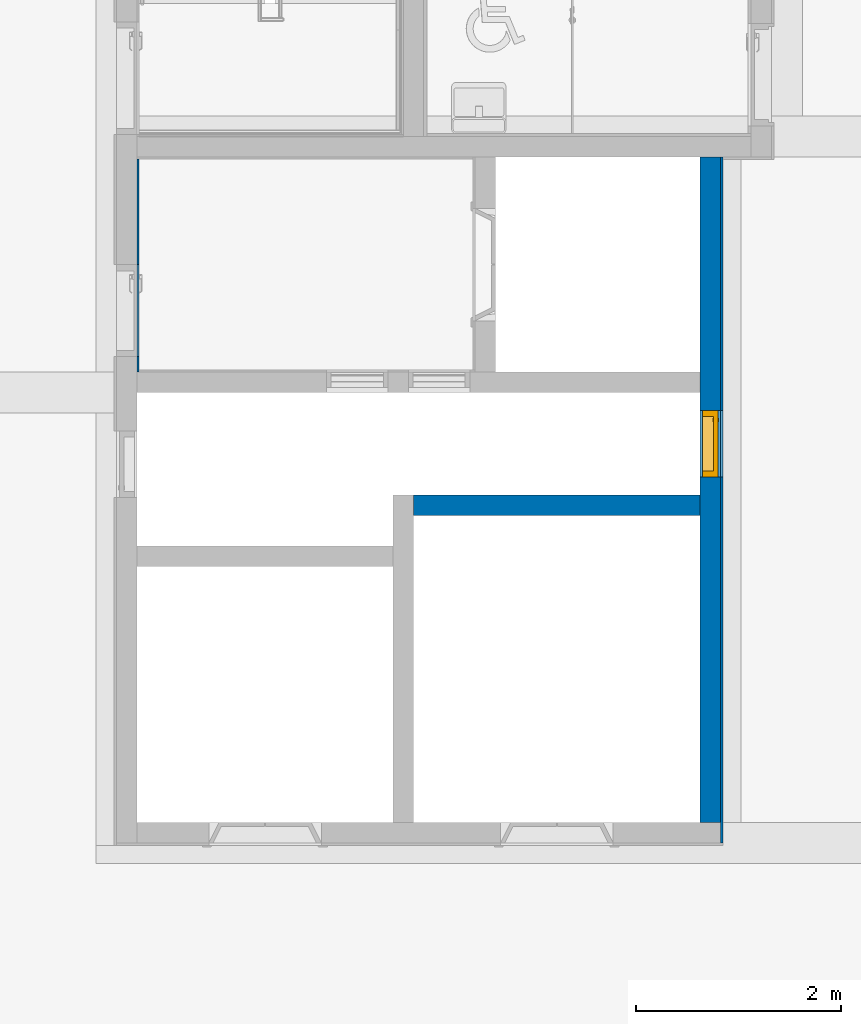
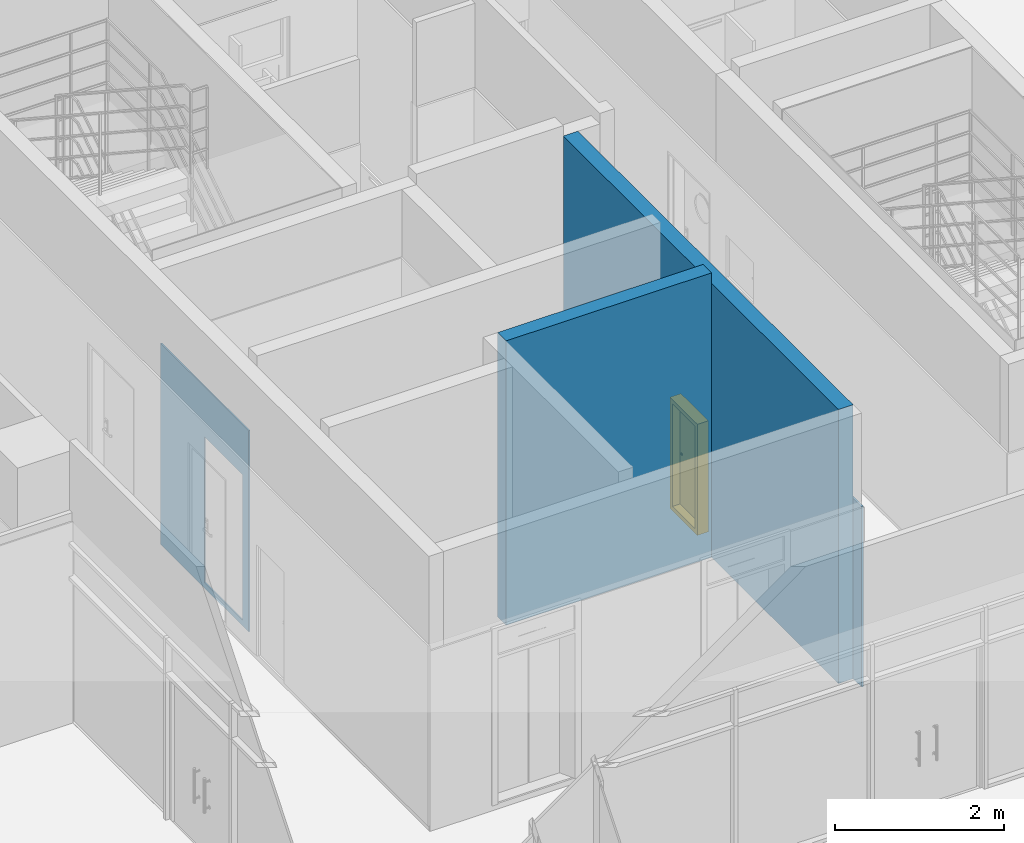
# One storey, part 54 of 81: 4 walls, 1 door, 3 openings.
"""IFC2X3 building model written with IfcOpenShell, lengths in millimetres."""

import ifcopenshell
import ifcopenshell.guid

model = None  # the IFC model being written
_history = None  # IfcOwnerHistory: only IFC2X3 demands one
_inside = {}  # id of a spatial element -> (the spatial element, [elements in it])
_under = {}  # id of a project, library or spatial element -> (it, [spatial elements below it])
_declared = {}  # id of a project -> (the project, [libraries it declares])
_typed = {}  # id of a type object -> (the type object, [elements of that type])
_made_of = {}  # id of a material, layer set ... -> (it, [elements and type objects made of it])


def new_model(schema):
    """Start an empty IFC model of exactly this schema.

    Asked for "IFC4X3", IfcOpenShell would pick the latest addendum, in which some entities
    have other attributes; the version numbers below select the first issue.
    IFC2X3 requires an IfcOwnerHistory on every rooted entity: one is made here for all.
    """
    global model, _history
    if schema == "IFC4X3":
        model = ifcopenshell.file(schema_version=(4, 3, 0, 0))
    else:
        model = ifcopenshell.file(schema=schema)
    _inside.clear()
    _under.clear()
    _declared.clear()
    _typed.clear()
    _made_of.clear()
    _history = None
    if model.schema == "IFC2X3":
        org = make("IfcOrganization", Name="unknown")
        user = make(
            "IfcPersonAndOrganization",
            ThePerson=make("IfcPerson", FamilyName="unknown"),
            TheOrganization=org,
        )
        app = make(
            "IfcApplication",
            ApplicationDeveloper=org,
            Version="unknown",
            ApplicationFullName="unknown",
            ApplicationIdentifier="unknown",
        )
        _history = make(
            "IfcOwnerHistory",
            OwningUser=user,
            OwningApplication=app,
            ChangeAction="ADDED",
            CreationDate=0,
        )
    return model


def make(cls, **values):
    """One entity of the class cls with the attributes given. An attribute that is None is left unset."""
    return model.create_entity(
        cls, **{name: value for name, value in values.items() if value is not None}
    )


def entity(cls, *values):
    """Any entity or typed value of the class cls, its attributes in the order of the schema. None: left unset."""
    e = model.create_entity(cls)
    for i, value in enumerate(values):
        if value is not None:
            e[i] = value
    return e


def rooted(cls, **values):
    """An entity with a GlobalId (a new one), such as an element, a storey or a relation."""
    return make(cls, GlobalId=ifcopenshell.guid.new(), OwnerHistory=_history, **values)


def si_unit(unit_type, name, prefix=None):
    """IfcSIUnit, for example si_unit("LENGTHUNIT", "METRE", prefix="MILLI")."""
    return make("IfcSIUnit", UnitType=unit_type, Prefix=prefix, Name=name)


def converted_unit(unit_type, name, factor, base, dimensions=None, offset=None):
    """IfcConversionBasedUnit, such as the inch: factor (a typed value) times the base unit."""
    return make(
        "IfcConversionBasedUnit"
        if offset is None
        else "IfcConversionBasedUnitWithOffset",
        ConversionOffset=offset,
        Dimensions=None
        if dimensions is None
        else entity("IfcDimensionalExponents", *dimensions),
        UnitType=unit_type,
        Name=name,
        ConversionFactor=make(
            "IfcMeasureWithUnit", ValueComponent=factor, UnitComponent=base
        ),
    )


def derived_unit(unit_type, elements):
    """IfcDerivedUnit: a product of units, each with its exponent."""
    return make(
        "IfcDerivedUnit",
        Elements=[
            make("IfcDerivedUnitElement", Unit=unit, Exponent=power)
            for unit, power in elements
        ],
        UnitType=unit_type,
    )


def assignment(units):
    """IfcUnitAssignment: the units of a project."""
    return None if units is None else make("IfcUnitAssignment", Units=units)


def point(xyz):
    """IfcCartesianPoint."""
    return None if xyz is None else make("IfcCartesianPoint", Coordinates=xyz)


def direction(xyz):
    """IfcDirection."""
    return None if xyz is None else make("IfcDirection", DirectionRatios=xyz)


def frame(location, z_axis=None, x_axis=None):
    """IfcAxis2Placement3D, a coordinate frame: its origin and axes. An axis left out is left unset."""
    return make(
        "IfcAxis2Placement3D",
        Location=point(location),
        Axis=direction(z_axis),
        RefDirection=direction(x_axis),
    )


def frame_2d(location, x_axis=None):
    """IfcAxis2Placement2D, a coordinate frame in the plane: its origin and x axis."""
    return make(
        "IfcAxis2Placement2D", Location=point(location), RefDirection=direction(x_axis)
    )


def origin():
    """The frame at (0, 0, 0) with its axes left unset."""
    return frame((0.0, 0.0, 0.0))


def place(relative_to, where):
    """IfcLocalPlacement: puts the frame where relative to a parent placement (None: the world)."""
    return make(
        "IfcLocalPlacement", PlacementRelTo=relative_to, RelativePlacement=where
    )


def context(
    kind, dimensions, precision=None, world=None, true_north=None, identifier=None
):
    """IfcGeometricRepresentationContext, for example the 3D "Model" context."""
    return make(
        "IfcGeometricRepresentationContext",
        ContextIdentifier=identifier,
        ContextType=kind,
        CoordinateSpaceDimension=dimensions,
        Precision=precision,
        WorldCoordinateSystem=world,
        TrueNorth=true_north,
    )


def subcontext(parent, identifier, kind, view, scale=None):
    """IfcGeometricRepresentationSubContext, for example "Body" below "Model"."""
    return make(
        "IfcGeometricRepresentationSubContext",
        ContextIdentifier=identifier,
        ContextType=kind,
        ParentContext=parent,
        TargetScale=scale,
        TargetView=view,
    )


def project(units=None, contexts=None):
    """IfcProject with its units and contexts."""
    return rooted(
        "IfcProject",
        Name="project",
        RepresentationContexts=contexts,
        UnitsInContext=assignment(units),
    )


def spatial(cls, under=None, at=None, **own):
    """A site, building, storey or space (cls), placed at a placement, below another one or the project."""
    s = rooted(cls, ObjectPlacement=at, **own)
    if under is not None:
        _under.setdefault(under.id(), (under, []))[1].append(s)
    return s


def polyline(points):
    """IfcPolyline through the points."""
    return make("IfcPolyline", Points=[point(p) for p in points])


def profile(cls, at=None, kind="AREA", **sizes):
    """A parametric profile (cls). Its sizes go by their IFC names, for example OverallWidth=200.0."""
    return make(cls, ProfileType=kind, Position=at, **sizes)


def rectangle(**sizes):
    """IfcRectangleProfileDef."""
    return profile("IfcRectangleProfileDef", **sizes)


def extrude(swept, where, along, depth):
    """IfcExtrudedAreaSolid: the profile swept, set in the frame where, extruded along a direction by depth."""
    return make(
        "IfcExtrudedAreaSolid",
        SweptArea=swept,
        Position=where,
        ExtrudedDirection=direction(along),
        Depth=depth,
    )


def clip(a, b, op="DIFFERENCE"):
    """IfcBooleanClippingResult: the solid a cut by the half space b."""
    return make(
        "IfcBooleanClippingResult", Operator=op, FirstOperand=a, SecondOperand=b
    )


def bounded_halfspace(plane, agree, where, boundary):
    """IfcPolygonalBoundedHalfSpace: a half space limited to a polygon's prism."""
    return make(
        "IfcPolygonalBoundedHalfSpace",
        BaseSurface=make("IfcPlane", Position=plane),
        AgreementFlag=agree,
        Position=where,
        PolygonalBoundary=boundary,
    )


def faces_of(points, faces, orient=None, outer=None):
    """IfcFace entities. A face is a list of loops; a loop is a list of indices into points, from 0.

    orient and outer hold one flag for each loop. By default every Orientation is true, the
    first loop of a face is its IfcFaceOuterBound and the others are IfcFaceBound.
    """
    made = []
    for i, loops in enumerate(faces):
        bounds = []
        for j, loop in enumerate(loops):
            is_outer = j == 0 if outer is None else outer[i][j]
            bounds.append(
                make(
                    "IfcFaceOuterBound" if is_outer else "IfcFaceBound",
                    Bound=make("IfcPolyLoop", Polygon=[points[k] for k in loop]),
                    Orientation=True if orient is None else orient[i][j],
                )
            )
        made.append(make("IfcFace", Bounds=bounds))
    return made


def faceted_brep(points, faces, orient=None, outer=None, voids=None):
    """IfcFacetedBrep: a solid bounded by flat faces; with voids (closed shells), ...WithVoids."""
    shared = [point(p) for p in points]
    hull = make("IfcClosedShell", CfsFaces=faces_of(shared, faces, orient, outer))
    if voids is None:
        return make("IfcFacetedBrep", Outer=hull)
    return make(
        "IfcFacetedBrepWithVoids",
        Outer=hull,
        Voids=[
            make(cls, CfsFaces=faces_of(shared, fs, o, b)) for cls, fs, o, b in voids
        ],
    )


def shape(context_of_items, identifier, shape_type, items):
    """IfcShapeRepresentation: the items that make up one representation, for example the "Body"."""
    return make(
        "IfcShapeRepresentation",
        ContextOfItems=context_of_items,
        RepresentationIdentifier=identifier,
        RepresentationType=shape_type,
        Items=items,
    )


def source(mapping_origin, context_of_items, identifier, shape_type, items):
    """IfcRepresentationMap: a shape defined once, which mapped items show again and again."""
    return make(
        "IfcRepresentationMap",
        MappingOrigin=mapping_origin,
        MappedRepresentation=shape(context_of_items, identifier, shape_type, items),
    )


def transform(
    local_origin,
    x_axis=None,
    y_axis=None,
    z_axis=None,
    scale=None,
    scale2=None,
    scale3=None,
    uniform=True,
):
    """IfcCartesianTransformationOperator3D, or its non-uniform kind. x_axis, y_axis, z_axis: its Axis1, 2, 3."""
    if uniform:
        return make(
            "IfcCartesianTransformationOperator3D",
            Axis1=direction(x_axis),
            Axis2=direction(y_axis),
            LocalOrigin=point(local_origin),
            Scale=scale,
            Axis3=direction(z_axis),
        )
    return make(
        "IfcCartesianTransformationOperator3DnonUniform",
        Axis1=direction(x_axis),
        Axis2=direction(y_axis),
        LocalOrigin=point(local_origin),
        Scale=scale,
        Axis3=direction(z_axis),
        Scale2=scale2,
        Scale3=scale3,
    )


def mapped(mapping_source, mapping_target):
    """IfcMappedItem: shows the shape of a source again, moved by a transform."""
    return make(
        "IfcMappedItem", MappingSource=mapping_source, MappingTarget=mapping_target
    )


def material(Name=None, Category=None):
    """IfcMaterial."""
    return make("IfcMaterial", Name=Name, Category=Category)


def material_list(materials):
    """IfcMaterialList."""
    return make("IfcMaterialList", Materials=materials)


def layer(
    of_material, thickness, ventilated=None, Name=None, Category=None, Priority=None
):
    """IfcMaterialLayer: one layer of a wall or slab, of a material (None: an air gap)."""
    return make(
        "IfcMaterialLayer",
        Material=of_material,
        LayerThickness=thickness,
        IsVentilated=ventilated,
        Name=Name,
        Category=Category,
        Priority=Priority,
    )


def layer_set(layers, Name=None):
    """IfcMaterialLayerSet."""
    return make("IfcMaterialLayerSet", MaterialLayers=layers, LayerSetName=Name)


def layer_usage(for_layer_set, set_direction, sense, offset, extent=None):
    """IfcMaterialLayerSetUsage: how a layer set lies in its element."""
    return make(
        "IfcMaterialLayerSetUsage",
        ForLayerSet=for_layer_set,
        LayerSetDirection=set_direction,
        DirectionSense=sense,
        OffsetFromReferenceLine=offset,
        ReferenceExtent=extent,
    )


def made_of(thing, what):
    """Note that an element or type object is made of a material, layer set ...; save() writes the relation."""
    if what is not None:
        _made_of.setdefault(what.id(), (what, []))[1].append(thing)
    return thing


def type_object(cls, material=None, **own):
    """A type object (cls), such as IfcWallType, which elements share."""
    return made_of(rooted(cls, **own), material)


def type_shapes(of_type, sources):
    """Give a type object the sources (RepresentationMaps) that its elements show as mapped items."""
    of_type.RepresentationMaps = sources


def element(
    cls,
    number,
    at=None,
    inside=None,
    cuts=None,
    type_object=None,
    material=None,
    context=None,
    identifier="Body",
    shape_type=None,
    held_by="IfcProductDefinitionShape",
    body=None,
    shapes=None,
    **own,
):
    """One element of the class cls, such as IfcWall. Its Tag is "e" and its number.

    at: its placement. inside: the storey or other place that contains it. cuts: it is an
    opening in that element (IfcRelVoidsElement). A single representation is given by context,
    identifier, shape_type and body (its items); several are given by shapes. held_by: the class
    of the entity that holds the representations. save() writes the other relations.
    """
    e = rooted(cls, Tag="e%d" % number, ObjectPlacement=at, **own)
    if body is not None:
        shapes = [shape(context, identifier, shape_type, body)]
    if shapes is not None:
        e.Representation = make(held_by, Representations=shapes)
    if inside is not None:
        _inside.setdefault(inside.id(), (inside, []))[1].append(e)
    if cuts is not None:
        rooted(
            "IfcRelVoidsElement", RelatingBuildingElement=cuts, RelatedOpeningElement=e
        )
    if type_object is not None:
        _typed.setdefault(type_object.id(), (type_object, []))[1].append(e)
    return made_of(e, material)


def fill(opening, filler):
    """IfcRelFillsElement: the door or window that sits in an opening."""
    return rooted(
        "IfcRelFillsElement",
        RelatingOpeningElement=opening,
        RelatedBuildingElement=filler,
    )


def aggregate(whole, parts):
    """IfcRelAggregates: a whole, such as a stair, and the parts it consists of."""
    return rooted("IfcRelAggregates", RelatingObject=whole, RelatedObjects=parts)


def save(model, path):
    """Write the relations noted so far, then the file.

    IfcRelAggregates (storeys below a building ...), IfcRelContainedInSpatialStructure (elements
    in a storey), IfcRelDefinesByType, IfcRelAssociatesMaterial and IfcRelDeclares: one each for
    every whole, place, type object, material and project.
    """
    for whole, parts in _under.values():
        aggregate(whole, parts)
    for where, things in _inside.values():
        rooted(
            "IfcRelContainedInSpatialStructure",
            RelatedElements=things,
            RelatingStructure=where,
        )
    for kind, things in _typed.values():
        rooted("IfcRelDefinesByType", RelatedObjects=things, RelatingType=kind)
    for what, things in _made_of.values():
        rooted("IfcRelAssociatesMaterial", RelatedObjects=things, RelatingMaterial=what)
    for by, libraries in _declared.values():
        rooted("IfcRelDeclares", RelatingContext=by, RelatedDefinitions=libraries)
    model.write(path)


model = new_model("IFC2X3")

# Units and contexts
model_context = context("Model", 3, precision=0.01, world=origin(), true_north=direction((6.123031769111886e-17, 1.0)))
body_context = subcontext(model_context, "Body", "Model", "MODEL_VIEW")
ifc_project = project(units=[si_unit("LENGTHUNIT", "METRE", prefix="MILLI"), si_unit("AREAUNIT", "SQUARE_METRE"), si_unit("VOLUMEUNIT", "CUBIC_METRE"), converted_unit("PLANEANGLEUNIT", "DEGREE", entity("IfcRatioMeasure", 0.017453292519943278), si_unit("PLANEANGLEUNIT", "RADIAN"), dimensions=[0, 0, 0, 0, 0, 0, 0]), si_unit("MASSUNIT", "GRAM", prefix="KILO"), derived_unit("MASSDENSITYUNIT", [(si_unit("MASSUNIT", "GRAM", prefix="KILO"), 1), (si_unit("LENGTHUNIT", "METRE"), -3)]), derived_unit("MOMENTOFINERTIAUNIT", [(si_unit("LENGTHUNIT", "METRE"), 4)]), si_unit("TIMEUNIT", "SECOND"), si_unit("FREQUENCYUNIT", "HERTZ"), si_unit("THERMODYNAMICTEMPERATUREUNIT", "DEGREE_CELSIUS"), derived_unit("THERMALTRANSMITTANCEUNIT", [(si_unit("MASSUNIT", "GRAM", prefix="KILO"), 1), (si_unit("THERMODYNAMICTEMPERATUREUNIT", "KELVIN"), -1), (si_unit("TIMEUNIT", "SECOND"), -3)]), derived_unit("VOLUMETRICFLOWRATEUNIT", [(si_unit("LENGTHUNIT", "METRE"), 3), (si_unit("TIMEUNIT", "SECOND"), -1)]), derived_unit("MASSFLOWRATEUNIT", [(si_unit("MASSUNIT", "GRAM", prefix="KILO"), 1), (si_unit("TIMEUNIT", "SECOND"), -1)]), derived_unit("ROTATIONALFREQUENCYUNIT", [(si_unit("TIMEUNIT", "SECOND"), -1)]), si_unit("ELECTRICCURRENTUNIT", "AMPERE"), si_unit("ELECTRICVOLTAGEUNIT", "VOLT"), si_unit("POWERUNIT", "WATT"), si_unit("FORCEUNIT", "NEWTON", prefix="KILO"), si_unit("ILLUMINANCEUNIT", "LUX"), si_unit("LUMINOUSFLUXUNIT", "LUMEN"), si_unit("LUMINOUSINTENSITYUNIT", "CANDELA"), derived_unit("USERDEFINED", [(si_unit("MASSUNIT", "GRAM", prefix="KILO"), -1), (si_unit("LENGTHUNIT", "METRE"), -2), (si_unit("TIMEUNIT", "SECOND"), 3), (si_unit("LUMINOUSFLUXUNIT", "LUMEN"), 1)]), derived_unit("SOUNDPOWERUNIT", [(si_unit("MASSUNIT", "GRAM", prefix="KILO"), 1), (si_unit("LENGTHUNIT", "METRE"), 2), (si_unit("TIMEUNIT", "SECOND"), -3)]), derived_unit("SOUNDPRESSUREUNIT", [(si_unit("MASSUNIT", "GRAM", prefix="KILO"), 1), (si_unit("LENGTHUNIT", "METRE"), -1), (si_unit("TIMEUNIT", "SECOND"), -2)]), derived_unit("LINEARVELOCITYUNIT", [(si_unit("LENGTHUNIT", "METRE"), 1), (si_unit("TIMEUNIT", "SECOND"), -1)]), si_unit("PRESSUREUNIT", "PASCAL"), derived_unit("USERDEFINED", [(si_unit("LENGTHUNIT", "METRE"), -2), (si_unit("MASSUNIT", "GRAM", prefix="KILO"), 1), (si_unit("TIMEUNIT", "SECOND"), -2)]), derived_unit("LINEARFORCEUNIT", [(si_unit("MASSUNIT", "GRAM", prefix="KILO"), 1), (si_unit("LENGTHUNIT", "METRE"), 1), (si_unit("TIMEUNIT", "SECOND"), -2), (si_unit("LENGTHUNIT", "METRE"), -1)]), derived_unit("PLANARFORCEUNIT", [(si_unit("MASSUNIT", "GRAM", prefix="KILO"), 1), (si_unit("LENGTHUNIT", "METRE"), 1), (si_unit("TIMEUNIT", "SECOND"), -2), (si_unit("LENGTHUNIT", "METRE"), -2)])], contexts=[model_context])

# Site, building, storey
site_placement = place(None, frame((-14167.972527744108, -657.2125860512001, 0.0)))
site = spatial("IfcSite", under=ifc_project, at=site_placement, Name="Default", CompositionType="ELEMENT")
building_placement = place(site_placement, origin())
building = spatial("IfcBuilding", under=site, at=building_placement, Name="Sample Building", CompositionType="ELEMENT")
storey_placement = place(building_placement, frame((0.0, 0.0, 13400.0)))
storey = spatial("IfcBuildingStorey", under=building, at=storey_placement, Name="지상 4층", CompositionType="ELEMENT", Elevation=13400.00000000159)

# Wall
ifc_material_1 = material(Name="KBIMS-콘크리트")
ifc_layer_1 = layer(ifc_material_1, 200.0)
ifc_layer_set_1 = layer_set([ifc_layer_1], Name="기본 벽:WA111-철근콘크리트구조 벽 200mm_CW1")
ifc_layer_usage_1 = layer_usage(ifc_layer_set_1, "AXIS2", "NEGATIVE", 100.0)
wall_type_1 = type_object("IfcWallType", Name="기본 벽:WA111-철근콘크리트구조 벽 200mm_CW1", PredefinedType="STANDARD", material=ifc_layer_set_1)
wall_1_placement = place(storey_placement, frame((32968.049265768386, 18857.21230965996, -2.3000097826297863e-09)))
element("IfcWallStandardCase", 1, at=wall_1_placement, inside=storey, type_object=wall_type_1, material=ifc_layer_usage_1, Name="기본 벽:WA111-철근콘크리트구조 벽 200mm_CW1", ObjectType="기본 벽:WA111-철근콘크리트구조 벽 200mm_CW1", context=body_context, shape_type="SweptSolid", body=[
    extrude(rectangle(XDim=2799.9232253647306, YDim=200.0, at=frame_2d((1399.9616126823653, -1.0871303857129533e-12), x_axis=(-1.0, 0.0))), origin(), (0.0, 0.0, 1.0), 4100.000000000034),
])

# Wall, opening, door
ifc_layer_usage_2 = layer_usage(ifc_layer_set_1, "AXIS2", "NEGATIVE", 100.0)
wall_2_placement = place(storey_placement, frame((35867.97249113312, 22257.212311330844, -2.3000097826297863e-09), z_axis=(0.0, 0.0, 1.0), x_axis=(0.0, -1.0, 0.0)))
wall_2 = element("IfcWallStandardCase", 2, at=wall_2_placement, inside=storey, type_object=wall_type_1, material=ifc_layer_usage_2, Name="기본 벽:WA111-철근콘크리트구조 벽 200mm_CW1", ObjectType="기본 벽:WA111-철근콘크리트구조 벽 200mm_CW1", context=body_context, shape_type="Clipping", body=[
    clip(extrude(rectangle(XDim=6499.909364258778, YDim=200.00000000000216, at=frame_2d((3249.954682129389, -3.154809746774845e-12), x_axis=(-1.0, 0.0))), origin(), (0.0, 0.0, 1.0), 3950.0000000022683), bounded_halfspace(frame((0.0, -100.0, 3950.0), z_axis=(0.0, 0.0, -1.0), x_axis=(0.0, 1.0, 0.0)), True, frame((0.0, -100.0, 3950.0), z_axis=(0.0, 0.0, -1.0), x_axis=(0.0, 1.0, 0.0)), polyline([(0.0, 0.0), (60960.0, 0.0), (60960.0, 1981172.3742260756), (0.0, 1981172.3742260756), (0.0, 0.0)]))),
])
opening_1_placement = place(wall_2_placement, frame((2475.0, -100.0, 80.0)))
opening_1 = element("IfcOpeningElement", 3, at=opening_1_placement, cuts=wall_2, Name="DR872-샤프트 점검구(스테인리스 스틸):DR872-샤프트 점검구(스테인리스 스틸)_650x1600:1", ObjectType="Opening", context=body_context, shape_type="SweptSolid", body=[
    extrude(rectangle(XDim=1600.0, YDim=649.9999999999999, at=frame_2d((800.0, 324.99999999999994), x_axis=(1.0, 0.0))), frame((0.0, 0.0, 0.0), z_axis=(0.0, 1.0, 0.0), x_axis=(0.0, 0.0, 1.0)), (0.0, 0.0, 1.0), 200.0),
])
ifc_material_2 = material(Name="KBIMS-스테인리스 스틸_도금")
ifc_material_list = material_list([ifc_material_2, ifc_material_2, ifc_material_2, ifc_material_2])
door_style = type_object("IfcDoorStyle", Name="DR872-샤프트 점검구(스테인리스 스틸):DR872-샤프트 점검구(스테인리스 스틸)_650x1600", ConstructionType="NOTDEFINED", OperationType="SINGLE_SWING_LEFT", ParameterTakesPrecedence=False, Sizeable=False, material=ifc_material_list)
shared_shape = source(origin(), body_context, "Body", "Brep", [
    faceted_brep([(105.0, 125.0, 782.6794919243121), (109.14213562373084, 125.0, 785.85786437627), (102.50000000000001, 125.0, 787.0096189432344), (98.88228567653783, 125.0, 785.5111126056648), (100.17638090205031, 125.0, 780.6814834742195), (105.60660171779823, 125.0, 789.3933982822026), (112.32050807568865, 125.0, 790.0), (107.99038105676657, 125.0, 792.5000000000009), (109.488887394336, 125.0, 796.1177143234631), (114.31851652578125, 125.0, 794.8236190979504), (110.0, 125.0, 800.0), (115.0, 125.0, 800.0), (109.48888739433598, 125.0, 803.8822856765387), (114.31851652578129, 125.0, 805.1763809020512), (107.99038105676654, 125.0, 807.5000000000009), (112.32050807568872, 125.0, 810.0), (105.60660171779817, 125.0, 810.6066017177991), (109.14213562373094, 125.0, 814.1421356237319), (102.49999999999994, 125.0, 812.9903810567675), (105.0, 125.0, 817.3205080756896), (98.88228567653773, 125.0, 814.4888873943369), (100.17638090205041, 125.0, 819.3185165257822), (95.0, 125.0, 815.0), (95.0, 125.0, 820.0), (91.11771432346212, 125.0, 814.4888873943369), (89.8236190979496, 125.0, 819.3185165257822), (87.49999999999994, 125.0, 812.9903810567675), (85.0, 125.0, 817.3205080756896), (84.39339828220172, 125.0, 810.6066017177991), (80.85786437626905, 125.0, 814.142135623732), (82.00961894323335, 125.0, 807.5000000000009), (77.67949192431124, 125.0, 810.0), (75.6814834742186, 125.0, 805.1763809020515), (80.51111260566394, 125.0, 803.8822856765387), (75.0, 125.0, 800.0), (80.0, 125.0, 800.0), (75.68148347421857, 125.0, 794.8236190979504), (80.51111260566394, 125.0, 796.117714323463), (77.67949192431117, 125.0, 790.0), (82.00961894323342, 125.0, 792.5000000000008), (80.85786437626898, 125.0, 785.85786437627), (84.39339828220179, 125.0, 789.3933982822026), (85.0, 125.0, 782.6794919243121), (87.50000000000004, 125.0, 787.0096189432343), (89.8236190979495, 125.0, 780.6814834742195), (91.11771432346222, 125.0, 785.5111126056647), (95.0, 125.0, 780.0), (95.0, 125.0, 785.0), (105.0, 130.0, 817.3205080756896), (109.14213562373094, 130.0, 814.1421356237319), (102.49999999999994, 130.0, 812.9903810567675), (98.88228567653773, 130.0, 814.4888873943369), (100.17638090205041, 130.0, 819.3185165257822), (105.60660171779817, 130.0, 810.6066017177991), (112.32050807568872, 130.0, 810.0), (107.99038105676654, 130.0, 807.5000000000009), (109.48888739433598, 130.0, 803.8822856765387), (114.31851652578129, 130.0, 805.1763809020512), (110.0, 130.0, 800.0), (115.0, 130.0, 800.0), (109.488887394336, 130.0, 796.1177143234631), (114.31851652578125, 130.0, 794.8236190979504), (107.99038105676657, 130.0, 792.5000000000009), (112.32050807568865, 130.0, 790.0), (105.60660171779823, 130.0, 789.3933982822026), (109.14213562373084, 130.0, 785.85786437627), (102.50000000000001, 130.0, 787.0096189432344), (105.0, 130.0, 782.6794919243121), (98.88228567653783, 130.0, 785.5111126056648), (100.17638090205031, 130.0, 780.6814834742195), (95.0, 130.0, 785.0), (95.0, 130.0, 780.0), (91.11771432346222, 130.0, 785.5111126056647), (89.8236190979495, 130.0, 780.6814834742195), (87.50000000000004, 130.0, 787.0096189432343), (85.0, 130.0, 782.6794919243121), (84.39339828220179, 130.0, 789.3933982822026), (80.85786437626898, 130.0, 785.85786437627), (82.00961894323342, 130.0, 792.5000000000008), (77.67949192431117, 130.0, 790.0), (75.68148347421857, 130.0, 794.8236190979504), (80.51111260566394, 130.0, 796.117714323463), (75.0, 130.0, 800.0), (80.0, 130.0, 800.0), (75.6814834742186, 130.0, 805.1763809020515), (80.51111260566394, 130.0, 803.8822856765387), (77.67949192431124, 130.0, 810.0), (82.00961894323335, 130.0, 807.5000000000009), (80.85786437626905, 130.0, 814.142135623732), (84.39339828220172, 130.0, 810.6066017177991), (85.0, 130.0, 817.3205080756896), (87.49999999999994, 130.0, 812.9903810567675), (89.8236190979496, 130.0, 819.3185165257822), (91.11771432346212, 130.0, 814.4888873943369), (95.0, 130.0, 820.0), (95.0, 130.0, 815.0)], [[[0, 1, 2]], [[0, 2, 3]], [[3, 4, 0]], [[2, 1, 5]], [[6, 5, 1]], [[7, 5, 6]], [[8, 7, 6]], [[8, 6, 9]], [[8, 9, 10]], [[10, 9, 11]], [[12, 10, 11]], [[12, 11, 13]], [[14, 12, 13]], [[14, 13, 15]], [[16, 14, 15]], [[15, 17, 16]], [[17, 18, 16]], [[18, 17, 19]], [[18, 19, 20]], [[21, 20, 19]], [[20, 21, 22]], [[22, 21, 23]], [[23, 24, 22]], [[24, 23, 25]], [[24, 25, 26]], [[27, 26, 25]], [[27, 28, 26]], [[27, 29, 28]], [[30, 28, 29]], [[31, 30, 29]], [[32, 30, 31]], [[33, 30, 32]], [[33, 32, 34]], [[34, 35, 33]], [[36, 35, 34]], [[36, 37, 35]], [[37, 36, 38]], [[39, 37, 38]], [[39, 38, 40]], [[39, 40, 41]], [[40, 42, 41]], [[41, 42, 43]], [[43, 42, 44]], [[44, 45, 43]], [[46, 45, 44]], [[4, 47, 46]], [[45, 46, 47]], [[4, 3, 47]], [[48, 49, 50]], [[48, 50, 51]], [[51, 52, 48]], [[50, 49, 53]], [[54, 53, 49]], [[55, 53, 54]], [[56, 55, 54]], [[56, 54, 57]], [[56, 57, 58]], [[58, 57, 59]], [[60, 58, 59]], [[60, 59, 61]], [[62, 60, 61]], [[62, 61, 63]], [[64, 62, 63]], [[63, 65, 64]], [[65, 66, 64]], [[66, 65, 67]], [[66, 67, 68]], [[69, 68, 67]], [[68, 69, 70]], [[70, 69, 71]], [[71, 72, 70]], [[72, 71, 73]], [[72, 73, 74]], [[75, 74, 73]], [[75, 76, 74]], [[75, 77, 76]], [[78, 76, 77]], [[79, 78, 77]], [[80, 78, 79]], [[81, 78, 80]], [[81, 80, 82]], [[82, 83, 81]], [[84, 83, 82]], [[84, 85, 83]], [[85, 84, 86]], [[87, 85, 86]], [[87, 86, 88]], [[87, 88, 89]], [[88, 90, 89]], [[89, 90, 91]], [[91, 90, 92]], [[92, 93, 91]], [[94, 93, 92]], [[52, 95, 94]], [[93, 94, 95]], [[52, 51, 95]], [[10, 58, 60, 8]], [[8, 60, 62, 7]], [[2, 5, 64, 66]], [[62, 64, 5, 7]], [[3, 2, 66, 68]], [[70, 47, 3, 68]], [[45, 72, 74, 43]], [[43, 74, 76, 41]], [[37, 39, 78, 81]], [[76, 78, 39, 41]], [[35, 37, 81, 83]], [[45, 47, 70, 72]], [[35, 83, 85, 33]], [[33, 85, 87, 30]], [[26, 28, 89, 91]], [[87, 89, 28, 30]], [[24, 26, 91, 93]], [[95, 22, 24, 93]], [[20, 51, 50, 18]], [[18, 50, 53, 16]], [[12, 14, 55, 56]], [[53, 55, 14, 16]], [[10, 12, 56, 58]], [[20, 22, 95, 51]], [[57, 13, 11, 59]], [[54, 15, 13, 57]], [[19, 17, 49, 48]], [[54, 49, 17, 15]], [[21, 19, 48, 52]], [[23, 21, 52, 94]], [[92, 25, 23, 94]], [[90, 27, 25, 92]], [[31, 29, 88, 86]], [[90, 88, 29, 27]], [[32, 31, 86, 84]], [[34, 32, 84, 82]], [[80, 36, 34, 82]], [[79, 38, 36, 80]], [[42, 40, 77, 75]], [[79, 77, 40, 38]], [[44, 42, 75, 73]], [[46, 44, 73, 71]], [[69, 4, 46, 71]], [[67, 0, 4, 69]], [[6, 1, 65, 63]], [[67, 65, 1, 0]], [[9, 6, 63, 61]], [[11, 9, 61, 59]]]),
    faceted_brep([(85.0, 180.0, 782.6794919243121), (80.85786437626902, 180.0, 785.85786437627), (87.4999999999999, 180.0, 787.0096189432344), (91.11771432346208, 180.0, 785.5111126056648), (89.82361909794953, 180.0, 780.6814834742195), (84.39339828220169, 180.0, 789.3933982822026), (77.6794919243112, 180.0, 790.0), (82.00961894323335, 180.0, 792.5000000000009), (80.51111260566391, 180.0, 796.1177143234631), (75.6814834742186, 180.0, 794.8236190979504), (80.0, 180.0, 800.0), (75.0, 180.0, 800.0), (80.51111260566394, 180.0, 803.8822856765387), (75.68148347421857, 180.0, 805.1763809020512), (82.00961894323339, 180.0, 807.5000000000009), (77.67949192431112, 180.0, 810.0), (84.39339828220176, 180.0, 810.6066017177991), (80.85786437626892, 180.0, 814.1421356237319), (87.49999999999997, 180.0, 812.9903810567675), (85.0, 180.0, 817.3205080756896), (91.11771432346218, 180.0, 814.4888873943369), (89.82361909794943, 180.0, 819.3185165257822), (95.0, 180.0, 815.0), (95.0, 180.0, 820.0), (98.8822856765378, 180.0, 814.4888873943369), (100.17638090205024, 180.0, 819.3185165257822), (102.49999999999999, 180.0, 812.9903810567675), (105.0, 180.0, 817.3205080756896), (105.6066017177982, 180.0, 810.6066017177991), (109.1421356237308, 180.0, 814.142135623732), (107.99038105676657, 180.0, 807.5000000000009), (112.32050807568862, 180.0, 810.0), (114.31851652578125, 180.0, 805.1763809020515), (109.48888739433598, 180.0, 803.8822856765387), (115.0, 180.0, 800.0), (110.0, 180.0, 800.0), (114.31851652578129, 180.0, 794.8236190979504), (109.48888739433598, 180.0, 796.117714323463), (112.32050807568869, 180.0, 790.0), (107.9903810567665, 180.0, 792.5000000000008), (109.14213562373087, 180.0, 785.85786437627), (105.60660171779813, 180.0, 789.3933982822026), (105.0, 180.0, 782.6794919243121), (102.49999999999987, 180.0, 787.0096189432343), (100.17638090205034, 180.0, 780.6814834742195), (98.8822856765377, 180.0, 785.5111126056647), (95.0, 180.0, 780.0), (95.0, 180.0, 785.0), (85.0, 175.0, 817.3205080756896), (80.85786437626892, 175.0, 814.1421356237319), (87.49999999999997, 175.0, 812.9903810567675), (91.11771432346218, 175.0, 814.4888873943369), (89.82361909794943, 175.0, 819.3185165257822), (84.39339828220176, 175.0, 810.6066017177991), (77.67949192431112, 175.0, 810.0), (82.00961894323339, 175.0, 807.5000000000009), (80.51111260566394, 175.0, 803.8822856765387), (75.68148347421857, 175.0, 805.1763809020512), (80.0, 175.0, 800.0), (75.0, 175.0, 800.0), (80.51111260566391, 175.0, 796.1177143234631), (75.6814834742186, 175.0, 794.8236190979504), (82.00961894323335, 175.0, 792.5000000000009), (77.6794919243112, 175.0, 790.0), (84.39339828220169, 175.0, 789.3933982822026), (80.85786437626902, 175.0, 785.85786437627), (87.4999999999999, 175.0, 787.0096189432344), (85.0, 175.0, 782.6794919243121), (91.11771432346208, 175.0, 785.5111126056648), (89.82361909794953, 175.0, 780.6814834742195), (95.0, 175.0, 785.0), (95.0, 175.0, 780.0), (98.8822856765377, 175.0, 785.5111126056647), (100.17638090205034, 175.0, 780.6814834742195), (102.49999999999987, 175.0, 787.0096189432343), (105.0, 175.0, 782.6794919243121), (105.60660171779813, 175.0, 789.3933982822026), (109.14213562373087, 175.0, 785.85786437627), (107.9903810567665, 175.0, 792.5000000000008), (112.32050807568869, 175.0, 790.0), (114.31851652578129, 175.0, 794.8236190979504), (109.48888739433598, 175.0, 796.117714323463), (115.0, 175.0, 800.0), (110.0, 175.0, 800.0), (114.31851652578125, 175.0, 805.1763809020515), (109.48888739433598, 175.0, 803.8822856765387), (112.32050807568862, 175.0, 810.0), (107.99038105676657, 175.0, 807.5000000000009), (109.1421356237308, 175.0, 814.142135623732), (105.6066017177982, 175.0, 810.6066017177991), (105.0, 175.0, 817.3205080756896), (102.49999999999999, 175.0, 812.9903810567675), (100.17638090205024, 175.0, 819.3185165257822), (98.8822856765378, 175.0, 814.4888873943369), (95.0, 175.0, 820.0), (95.0, 175.0, 815.0)], [[[0, 1, 2]], [[0, 2, 3]], [[3, 4, 0]], [[2, 1, 5]], [[6, 5, 1]], [[7, 5, 6]], [[8, 7, 6]], [[8, 6, 9]], [[8, 9, 10]], [[10, 9, 11]], [[12, 10, 11]], [[12, 11, 13]], [[14, 12, 13]], [[14, 13, 15]], [[16, 14, 15]], [[15, 17, 16]], [[17, 18, 16]], [[18, 17, 19]], [[18, 19, 20]], [[21, 20, 19]], [[20, 21, 22]], [[22, 21, 23]], [[23, 24, 22]], [[24, 23, 25]], [[24, 25, 26]], [[27, 26, 25]], [[27, 28, 26]], [[27, 29, 28]], [[30, 28, 29]], [[31, 30, 29]], [[32, 30, 31]], [[33, 30, 32]], [[33, 32, 34]], [[34, 35, 33]], [[36, 35, 34]], [[36, 37, 35]], [[37, 36, 38]], [[39, 37, 38]], [[39, 38, 40]], [[39, 40, 41]], [[40, 42, 41]], [[41, 42, 43]], [[43, 42, 44]], [[44, 45, 43]], [[46, 45, 44]], [[4, 47, 46]], [[45, 46, 47]], [[4, 3, 47]], [[48, 49, 50]], [[48, 50, 51]], [[51, 52, 48]], [[50, 49, 53]], [[54, 53, 49]], [[55, 53, 54]], [[56, 55, 54]], [[56, 54, 57]], [[56, 57, 58]], [[58, 57, 59]], [[60, 58, 59]], [[60, 59, 61]], [[62, 60, 61]], [[62, 61, 63]], [[64, 62, 63]], [[63, 65, 64]], [[65, 66, 64]], [[66, 65, 67]], [[66, 67, 68]], [[69, 68, 67]], [[68, 69, 70]], [[70, 69, 71]], [[71, 72, 70]], [[72, 71, 73]], [[72, 73, 74]], [[75, 74, 73]], [[75, 76, 74]], [[75, 77, 76]], [[78, 76, 77]], [[79, 78, 77]], [[80, 78, 79]], [[81, 78, 80]], [[81, 80, 82]], [[82, 83, 81]], [[84, 83, 82]], [[84, 85, 83]], [[85, 84, 86]], [[87, 85, 86]], [[87, 86, 88]], [[87, 88, 89]], [[88, 90, 89]], [[89, 90, 91]], [[91, 90, 92]], [[92, 93, 91]], [[94, 93, 92]], [[52, 95, 94]], [[93, 94, 95]], [[52, 51, 95]], [[35, 83, 85, 33]], [[33, 85, 87, 30]], [[26, 28, 89, 91]], [[87, 89, 28, 30]], [[24, 26, 91, 93]], [[95, 22, 24, 93]], [[20, 51, 50, 18]], [[18, 50, 53, 16]], [[12, 14, 55, 56]], [[53, 55, 14, 16]], [[10, 12, 56, 58]], [[20, 22, 95, 51]], [[10, 58, 60, 8]], [[8, 60, 62, 7]], [[2, 5, 64, 66]], [[62, 64, 5, 7]], [[3, 2, 66, 68]], [[70, 47, 3, 68]], [[45, 72, 74, 43]], [[43, 74, 76, 41]], [[37, 39, 78, 81]], [[76, 78, 39, 41]], [[35, 37, 81, 83]], [[45, 47, 70, 72]], [[80, 36, 34, 82]], [[79, 38, 36, 80]], [[42, 40, 77, 75]], [[79, 77, 40, 38]], [[44, 42, 75, 73]], [[46, 44, 73, 71]], [[69, 4, 46, 71]], [[67, 0, 4, 69]], [[6, 1, 65, 63]], [[67, 65, 1, 0]], [[9, 6, 63, 61]], [[11, 9, 61, 59]], [[57, 13, 11, 59]], [[54, 15, 13, 57]], [[19, 17, 49, 48]], [[54, 49, 17, 15]], [[21, 19, 48, 52]], [[23, 21, 52, 94]], [[92, 25, 23, 94]], [[90, 27, 25, 92]], [[31, 29, 88, 86]], [[90, 88, 29, 27]], [[32, 31, 86, 84]], [[34, 32, 84, 82]]]),
    faceted_brep([(620.0, 175.0, 1570.0), (30.0, 175.0, 1570.0), (30.0, 130.0, 1570.0), (620.0, 130.0, 1570.0), (620.0, 175.0, 30.0), (620.0, 130.0, 30.0), (30.0, 130.0, 30.0), (30.0, 175.0, 30.0)], [[[0, 1, 2, 3]], [[4, 5, 6, 7]], [[1, 0, 4, 7]], [[2, 1, 7, 6]], [[3, 2, 6, 5]], [[0, 3, 5, 4]]]),
    faceted_brep([(30.0, 130.0, 1570.0), (30.0, 175.0, 1570.0), (620.0, 175.0, 1570.0), (620.0, 130.0, 1570.0), (60.0, 25.0, 1540.0), (60.0, 130.0, 1540.0), (590.0, 130.0, 1540.0), (590.0, 25.0, 1540.0), (0.0, 175.0, 1600.0), (0.0, 25.0, 1600.0), (650.0, 25.0, 1600.0), (650.0, 175.0, 1600.0), (620.0, 175.0, 30.0), (620.0, 130.0, 30.0), (590.0, 130.0, 60.0), (590.0, 25.0, 60.0), (650.0, 25.0, 0.0), (650.0, 175.0, 0.0), (30.0, 175.0, 30.0), (30.0, 130.0, 30.0), (60.0, 130.0, 60.0), (60.0, 25.0, 60.0), (0.0, 25.0, 0.0), (0.0, 175.0, 0.0)], [[[0, 1, 2, 3]], [[4, 5, 6, 7]], [[8, 9, 10, 11]], [[3, 2, 12, 13]], [[7, 6, 14, 15]], [[11, 10, 16, 17]], [[13, 12, 18, 19]], [[15, 14, 20, 21]], [[17, 16, 22, 23]], [[19, 18, 1, 0]], [[3, 13, 19, 0], [5, 20, 14, 6]], [[21, 20, 5, 4]], [[7, 15, 21, 4], [9, 22, 16, 10]], [[23, 22, 9, 8]], [[11, 17, 23, 8], [1, 18, 12, 2]]], outer=[[True], [True], [True], [True], [True], [True], [True], [True], [True], [True], [True, False], [True], [False, True], [True], [True, False]]),
])
type_shapes(door_style, [shared_shape])
door_placement = place(opening_1_placement, frame((2.5062981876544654e-06, 0.0, 2.2992026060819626e-09)))
door = element("IfcDoor", 4, at=door_placement, inside=storey, type_object=door_style, material=ifc_material_2, Name="DR872-샤프트 점검구(스테인리스 스틸):DR872-샤프트 점검구(스테인리스 스틸)_650x1600", ObjectType="DR872-샤프트 점검구(스테인리스 스틸):DR872-샤프트 점검구(스테인리스 스틸)_650x1600", OverallHeight=1600.0, OverallWidth=649.9999999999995, context=body_context, shape_type="MappedRepresentation", body=[
    mapped(shared_shape, transform((0.0, 0.0, 0.0), scale=1.0)),
])
fill(opening_1, door)

# Wall, opening
ifc_material_3 = material(Name="WA611-수성페인트 (내부) 벽 (3회)")
ifc_layer_2 = layer(ifc_material_3, 1.0)
ifc_material_4 = material(Name="WA551-시멘트모르타르 (내부) 벽 18mm")
ifc_layer_3 = layer(ifc_material_4, 16.0)
ifc_material_5 = material(Name="WA555-콘크리트면정리 벽 (내부)")
ifc_layer_4 = layer(ifc_material_5, 1.0)
ifc_layer_set_2 = layer_set([ifc_layer_2, ifc_layer_3, ifc_layer_4], Name="기본 벽:A1-32-06A-콘크리트면정리, 시멘트모르타르(미장용), 수성페인트(내부) (18mm)")
ifc_layer_usage_3 = layer_usage(ifc_layer_set_2, "AXIS2", "POSITIVE", -9.000000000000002)
wall_type_2 = type_object("IfcWallType", Name="기본 벽:A1-32-06A-콘크리트면정리, 시멘트모르타르(미장용), 수성페인트(내부) (18mm)", PredefinedType="STANDARD", material=ifc_layer_set_2)
wall_3_placement = place(storey_placement, frame((30276.96377997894, 20157.211898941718, 0.0), z_axis=(0.0, 0.0, 1.0), x_axis=(0.0, 1.0, 0.0)))
wall_3 = element("IfcWallStandardCase", 5, at=wall_3_placement, inside=storey, type_object=wall_type_2, material=ifc_layer_usage_3, Name="기본 벽:A1-32-06A-콘크리트면정리, 시멘트모르타르(미장용), 수성페인트(내부) (18mm)", ObjectType="기본 벽:A1-32-06A-콘크리트면정리, 시멘트모르타르(미장용), 수성페인트(내부) (18mm)", context=body_context, shape_type="SweptSolid", body=[
    extrude(rectangle(XDim=2082.0000033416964, YDim=18.00000000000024, at=frame_2d((1041.0000016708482, -2.1662671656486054e-12), x_axis=(-1.0, 0.0))), origin(), (0.0, 0.0, 1.0), 2899.999999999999),
])
opening_2_placement = place(wall_3_placement, origin())
element("IfcOpeningElement", 6, at=opening_2_placement, cuts=wall_3, Name="기본 벽:A1-32-06A-콘크리트면정리, 시멘트모르타르(미장용), 수성페인트(내부) (18mm)", ObjectType="Opening", context=body_context, shape_type="SweptSolid", body=[
    extrude(rectangle(XDim=2099.9999999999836, YDim=899.999999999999, at=frame_2d((1.0231815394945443e-12, 2.1600499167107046e-12), x_axis=(1.0, 0.0))), frame((599.9657271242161, -1314.9999815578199, 1130.0), z_axis=(0.0, 1.0, 0.0), x_axis=(0.0, 0.0, 1.0)), (0.0, 0.0, 1.0), 3048.0),
])

ifc_layer_5 = layer(ifc_material_3, 1.0)
ifc_material_6 = material(Name="WA551-시멘트모르타르 (내부) 벽 24mm")
ifc_layer_6 = layer(ifc_material_6, 21.0)
ifc_material_7 = material(Name="WA961-바닥방수 연장")
ifc_layer_7 = layer(ifc_material_7, 1.0)
ifc_layer_8 = layer(ifc_material_5, 1.0)
ifc_layer_set_3 = layer_set([ifc_layer_5, ifc_layer_6, ifc_layer_7, ifc_layer_8], Name="기본 벽:A1-32-07A-콘크리트면정리, 바닥방수연장, 시멘트모르타르(미장용), 수성페인트(내부) (24mm)")
ifc_layer_usage_4 = layer_usage(ifc_layer_set_3, "AXIS2", "NEGATIVE", 12.000000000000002)
wall_type_3 = type_object("IfcWallType", Name="기본 벽:A1-32-07A-콘크리트면정리, 바닥방수연장, 시멘트모르타르(미장용), 수성페인트(내부) (24mm)", PredefinedType="STANDARD", material=ifc_layer_set_3)
wall_4_placement = place(storey_placement, frame((35979.97249113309, 22257.211902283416, 0.0), z_axis=(0.0, 0.0, 1.0), x_axis=(0.0, -1.0, 0.0)))
wall_4 = element("IfcWallStandardCase", 7, at=wall_4_placement, inside=storey, type_object=wall_type_3, material=ifc_layer_usage_4, Name="기본 벽:A1-32-07A-콘크리트면정리, 바닥방수연장, 시멘트모르타르(미장용), 수성페인트(내부) (24mm)", ObjectType="기본 벽:A1-32-07A-콘크리트면정리, 바닥방수연장, 시멘트모르타르(미장용), 수성페인트(내부) (24mm)", context=body_context, shape_type="SweptSolid", body=[
    extrude(rectangle(XDim=6699.908955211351, YDim=23.999999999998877, at=frame_2d((3349.9544776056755, 9.36140054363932e-13), x_axis=(-1.0, 0.0))), origin(), (0.0, 0.0, 1.0), 2599.999999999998),
])
opening_3_placement = place(wall_4_placement, origin())
element("IfcOpeningElement", 8, at=opening_3_placement, cuts=wall_4, Name="기본 벽:A1-32-07A-콘크리트면정리, 바닥방수연장, 시멘트모르타르(미장용), 수성페인트(내부) (24mm)", ObjectType="Opening", context=body_context, shape_type="SweptSolid", body=[
    extrude(rectangle(XDim=1600.0, YDim=649.9999999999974, at=frame_2d((-1.0800249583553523e-12, 0.0), x_axis=(0.0, 1.0))), frame((2799.9995934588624, -1736.0, 880.0), z_axis=(0.0, 1.0, 0.0), x_axis=(-1.0, 0.0, 0.0)), (0.0, 0.0, 1.0), 3048.0),
])

save(model, "model.ifc")
